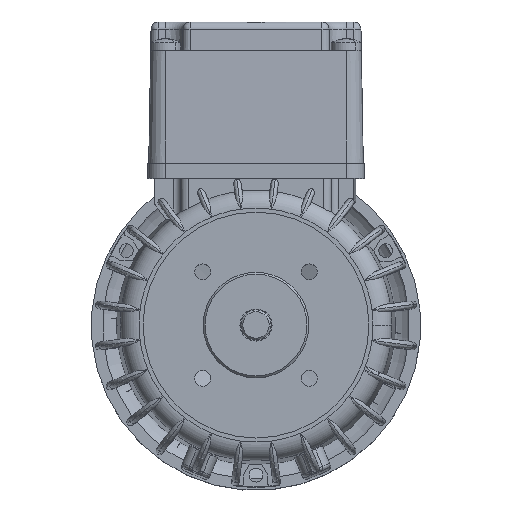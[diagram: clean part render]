
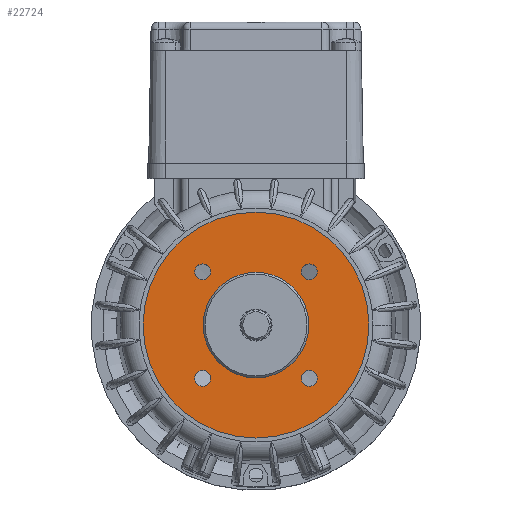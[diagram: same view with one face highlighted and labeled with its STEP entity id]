
A CAD part, top view. The second image highlights one B-rep face of the part: STEP entity #22724.
In plain terms, the highlighted planar face has unit normal (0, 0, 1).
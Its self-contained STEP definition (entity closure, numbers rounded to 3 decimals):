
#2727 = CARTESIAN_POINT ( 'NONE',  ( 16.242, -14.142, -6. ) ) ;
#2743 = CARTESIAN_POINT ( 'NONE',  ( 30., 0., -6. ) ) ;
#2757 = CARTESIAN_POINT ( 'NONE',  ( 12.042, 14.142, -6. ) ) ;
#13253 = EDGE_CURVE ( 'NONE', #13623, #13457, #53944, .T. ) ;
#13288 = VERTEX_POINT ( 'NONE', #53975 ) ;
#13446 = VERTEX_POINT ( 'NONE', #2757 ) ;
#13450 = VERTEX_POINT ( 'NONE', #2743 ) ;
#13457 = VERTEX_POINT ( 'NONE', #2727 ) ;
#13507 = EDGE_CURVE ( 'NONE', #13545, #13565, #56058, .T. ) ;
#13513 = VERTEX_POINT ( 'NONE', #56088 ) ;
#13522 = EDGE_CURVE ( 'NONE', #13638, #13624, #56112, .T. ) ;
#13537 = VERTEX_POINT ( 'NONE', #56174 ) ;
#13545 = VERTEX_POINT ( 'NONE', #56206 ) ;
#13565 = VERTEX_POINT ( 'NONE', #56335 ) ;
#13591 = EDGE_CURVE ( 'NONE', #13450, #13513, #56080, .T. ) ;
#13592 = EDGE_CURVE ( 'NONE', #13288, #13632, #56355, .T. ) ;
#13593 = EDGE_CURVE ( 'NONE', #13446, #13537, #56359, .T. ) ;
#13623 = VERTEX_POINT ( 'NONE', #56420 ) ;
#13624 = VERTEX_POINT ( 'NONE', #56419 ) ;
#13632 = VERTEX_POINT ( 'NONE', #56402 ) ;
#13638 = VERTEX_POINT ( 'NONE', #56385 ) ;
#21244 = ORIENTED_EDGE ( 'NONE', *, *, #22165, .F. ) ;
#21948 = EDGE_CURVE ( 'NONE', #13565, #13545, #25000, .T. ) ;
#22165 = EDGE_CURVE ( 'NONE', #13537, #13446, #25460, .T. ) ;
#22170 = EDGE_LOOP ( 'NONE', ( #21244, #22484 ) ) ;
#22376 = EDGE_CURVE ( 'NONE', #13457, #13623, #25735, .T. ) ;
#22413 = EDGE_CURVE ( 'NONE', #13632, #13288, #25936, .T. ) ;
#22457 = ORIENTED_EDGE ( 'NONE', *, *, #13592, .F. ) ;
#22459 = ORIENTED_EDGE ( 'NONE', *, *, #13591, .T. ) ;
#22460 = ORIENTED_EDGE ( 'NONE', *, *, #22861, .T. ) ;
#22484 = ORIENTED_EDGE ( 'NONE', *, *, #13593, .F. ) ;
#22486 = ORIENTED_EDGE ( 'NONE', *, *, #21948, .F. ) ;
#22553 = EDGE_LOOP ( 'NONE', ( #22610, #22995 ) ) ;
#22571 = EDGE_LOOP ( 'NONE', ( #22459, #22460 ) ) ;
#22607 = EDGE_LOOP ( 'NONE', ( #22486, #22800 ) ) ;
#22610 = ORIENTED_EDGE ( 'NONE', *, *, #22376, .F. ) ;
#22701 = EDGE_CURVE ( 'NONE', #13624, #13638, #26224, .T. ) ;
#22706 = EDGE_LOOP ( 'NONE', ( #23058, #22457 ) ) ;
#22724 = ADVANCED_FACE ( 'NONE', ( #26206, #26213, #26210, #26159, #26211, #26205 ), #26310, .F. ) ;
#22771 = ORIENTED_EDGE ( 'NONE', *, *, #13522, .T. ) ;
#22772 = ORIENTED_EDGE ( 'NONE', *, *, #22701, .T. ) ;
#22800 = ORIENTED_EDGE ( 'NONE', *, *, #13507, .F. ) ;
#22861 = EDGE_CURVE ( 'NONE', #13513, #13450, #26510, .T. ) ;
#22890 = EDGE_LOOP ( 'NONE', ( #22771, #22772 ) ) ;
#22995 = ORIENTED_EDGE ( 'NONE', *, *, #13253, .F. ) ;
#23058 = ORIENTED_EDGE ( 'NONE', *, *, #22413, .F. ) ;
#24979 = DIRECTION ( 'NONE',  ( 1., 0., 0. ) ) ;
#25000 = CIRCLE ( 'NONE', #25011, 2.1 ) ;
#25002 = CARTESIAN_POINT ( 'NONE',  ( -14.142, 14.142, -6. ) ) ;
#25011 = AXIS2_PLACEMENT_3D ( 'NONE', #25002, #25019, #24979 ) ;
#25019 = DIRECTION ( 'NONE',  ( 0., 0., 1. ) ) ;
#25432 = AXIS2_PLACEMENT_3D ( 'NONE', #25476, #25475, #25474 ) ;
#25460 = CIRCLE ( 'NONE', #25432, 2.1 ) ;
#25474 = DIRECTION ( 'NONE',  ( 1., 0., 0. ) ) ;
#25475 = DIRECTION ( 'NONE',  ( 0., 0., 1. ) ) ;
#25476 = CARTESIAN_POINT ( 'NONE',  ( 14.142, 14.142, -6. ) ) ;
#25735 = CIRCLE ( 'NONE', #25764, 2.1 ) ;
#25751 = CARTESIAN_POINT ( 'NONE',  ( 14.142, -14.142, -6. ) ) ;
#25764 = AXIS2_PLACEMENT_3D ( 'NONE', #25751, #25779, #25793 ) ;
#25779 = DIRECTION ( 'NONE',  ( 0., 0., 1. ) ) ;
#25793 = DIRECTION ( 'NONE',  ( 1., 0., 0. ) ) ;
#25929 = DIRECTION ( 'NONE',  ( 1., 0., 0. ) ) ;
#25930 = DIRECTION ( 'NONE',  ( 0., 0., 1. ) ) ;
#25931 = CARTESIAN_POINT ( 'NONE',  ( -14.142, -14.142, -6. ) ) ;
#25932 = AXIS2_PLACEMENT_3D ( 'NONE', #25931, #25930, #25929 ) ;
#25936 = CIRCLE ( 'NONE', #25932, 2.1 ) ;
#26159 = FACE_BOUND ( 'NONE', #22890, .T. ) ;
#26205 = FACE_BOUND ( 'NONE', #22607, .T. ) ;
#26206 = FACE_BOUND ( 'NONE', #22170, .T. ) ;
#26207 = DIRECTION ( 'NONE',  ( -1., 0., 0. ) ) ;
#26208 = AXIS2_PLACEMENT_3D ( 'NONE', #26212, #26222, #26207 ) ;
#26210 = FACE_BOUND ( 'NONE', #22706, .T. ) ;
#26211 = FACE_OUTER_BOUND ( 'NONE', #22571, .T. ) ;
#26212 = CARTESIAN_POINT ( 'NONE',  ( 0., 0., -6. ) ) ;
#26213 = FACE_BOUND ( 'NONE', #22553, .T. ) ;
#26222 = DIRECTION ( 'NONE',  ( 0., 0., -1. ) ) ;
#26224 = CIRCLE ( 'NONE', #26208, 14. ) ;
#26305 = DIRECTION ( 'NONE',  ( -1., 0., 0. ) ) ;
#26310 = PLANE ( 'NONE',  #26326 ) ;
#26326 = AXIS2_PLACEMENT_3D ( 'NONE', #26339, #26347, #26305 ) ;
#26339 = CARTESIAN_POINT ( 'NONE',  ( 0., 14.75, -6. ) ) ;
#26347 = DIRECTION ( 'NONE',  ( 0., 0., -1. ) ) ;
#26445 = DIRECTION ( 'NONE',  ( 1., 0., 0. ) ) ;
#26446 = DIRECTION ( 'NONE',  ( 0., 0., 1. ) ) ;
#26447 = CARTESIAN_POINT ( 'NONE',  ( 0., 0., -6. ) ) ;
#26448 = AXIS2_PLACEMENT_3D ( 'NONE', #26447, #26446, #26445 ) ;
#26510 = CIRCLE ( 'NONE', #26448, 30. ) ;
#53720 = CARTESIAN_POINT ( 'NONE',  ( 14.142, -14.142, -6. ) ) ;
#53763 = DIRECTION ( 'NONE',  ( 0., 0., 1. ) ) ;
#53942 = DIRECTION ( 'NONE',  ( 1., 0., 0. ) ) ;
#53943 = AXIS2_PLACEMENT_3D ( 'NONE', #53720, #53763, #53942 ) ;
#53944 = CIRCLE ( 'NONE', #53943, 2.1 ) ;
#53975 = CARTESIAN_POINT ( 'NONE',  ( -16.242, -14.142, -6. ) ) ;
#56042 = CARTESIAN_POINT ( 'NONE',  ( -14.142, 14.142, -6. ) ) ;
#56047 = AXIS2_PLACEMENT_3D ( 'NONE', #56042, #56050, #56076 ) ;
#56050 = DIRECTION ( 'NONE',  ( 0., 0., 1. ) ) ;
#56058 = CIRCLE ( 'NONE', #56047, 2.1 ) ;
#56076 = DIRECTION ( 'NONE',  ( 1., 0., 0. ) ) ;
#56078 = CARTESIAN_POINT ( 'NONE',  ( 0., 0., -6. ) ) ;
#56079 = AXIS2_PLACEMENT_3D ( 'NONE', #56078, #56102, #56101 ) ;
#56080 = CIRCLE ( 'NONE', #56079, 30. ) ;
#56088 = CARTESIAN_POINT ( 'NONE',  ( -30., 0., -6. ) ) ;
#56095 = DIRECTION ( 'NONE',  ( 0., 0., -1. ) ) ;
#56101 = DIRECTION ( 'NONE',  ( 1., 0., 0. ) ) ;
#56102 = DIRECTION ( 'NONE',  ( 0., 0., 1. ) ) ;
#56110 = DIRECTION ( 'NONE',  ( -1., 0., 0. ) ) ;
#56111 = AXIS2_PLACEMENT_3D ( 'NONE', #56121, #56095, #56110 ) ;
#56112 = CIRCLE ( 'NONE', #56111, 14. ) ;
#56121 = CARTESIAN_POINT ( 'NONE',  ( 0., 0., -6. ) ) ;
#56174 = CARTESIAN_POINT ( 'NONE',  ( 16.242, 14.142, -6. ) ) ;
#56206 = CARTESIAN_POINT ( 'NONE',  ( -16.242, 14.142, -6. ) ) ;
#56335 = CARTESIAN_POINT ( 'NONE',  ( -12.042, 14.142, -6. ) ) ;
#56348 = AXIS2_PLACEMENT_3D ( 'NONE', #56356, #56361, #56360 ) ;
#56354 = AXIS2_PLACEMENT_3D ( 'NONE', #56365, #56364, #56363 ) ;
#56355 = CIRCLE ( 'NONE', #56348, 2.1 ) ;
#56356 = CARTESIAN_POINT ( 'NONE',  ( -14.142, -14.142, -6. ) ) ;
#56359 = CIRCLE ( 'NONE', #56354, 2.1 ) ;
#56360 = DIRECTION ( 'NONE',  ( 1., 0., 0. ) ) ;
#56361 = DIRECTION ( 'NONE',  ( 0., 0., 1. ) ) ;
#56363 = DIRECTION ( 'NONE',  ( 1., 0., 0. ) ) ;
#56364 = DIRECTION ( 'NONE',  ( 0., 0., 1. ) ) ;
#56365 = CARTESIAN_POINT ( 'NONE',  ( 14.142, 14.142, -6. ) ) ;
#56385 = CARTESIAN_POINT ( 'NONE',  ( -14., 0., -6. ) ) ;
#56402 = CARTESIAN_POINT ( 'NONE',  ( -12.042, -14.142, -6. ) ) ;
#56419 = CARTESIAN_POINT ( 'NONE',  ( 14., 0., -6. ) ) ;
#56420 = CARTESIAN_POINT ( 'NONE',  ( 12.042, -14.142, -6. ) ) ;
